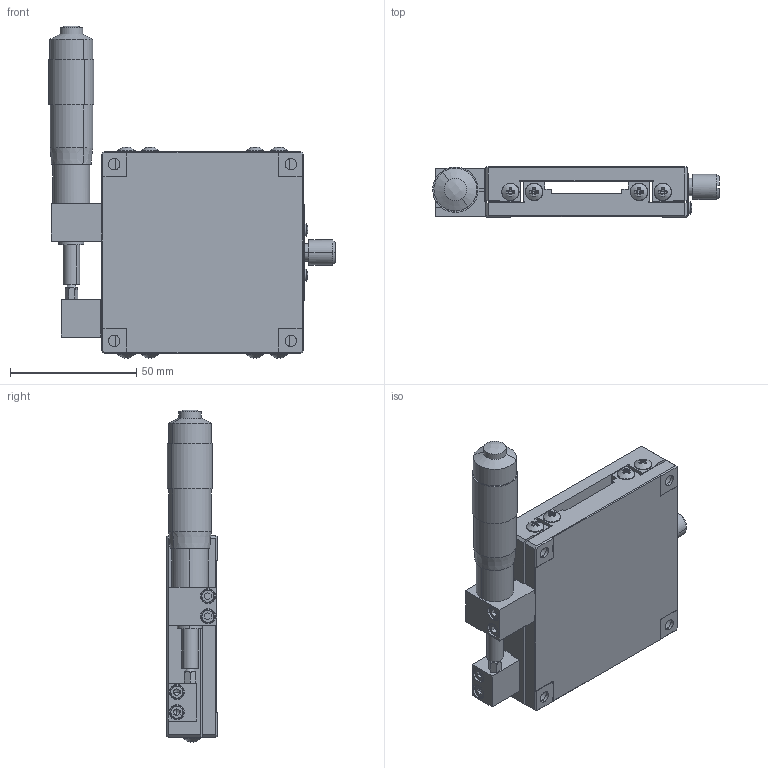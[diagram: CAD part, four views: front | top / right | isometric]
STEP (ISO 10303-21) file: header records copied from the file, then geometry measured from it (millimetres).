
FILE_DESCRIPTION (( 'STEP AP203' ), '1' );
FILE_NAME ('LX80-L.STEP', '2013-12-21T05:47:08', ( 'pengyu' ), ( '' ), 'SwSTEP 2.0', 'SolidWorks 2011', '' );
FILE_SCHEMA (( 'CONFIG_CONTROL_DESIGN' ));
Length unit declared in the file: millimetre
Products named in the file (4): LX80-L; MT25-3-1; L80L-2; L80L-1
Assembly tree (3 placements, depth 2):
  LX80-L
    L80L-2
    MT25-3-1
    L80L-1
Bounding box: 113.57 x 20 x 131.58 mm (x, y, z)
Volume: 128894.3 mm3; surface area: 51337.8 mm2
Topology: 3 solids, 11 shells, 637 faces, 1606 edges, 997 vertices
Faces by surface type: plane 371, cylinder 133, cone 91, bspline 42
Entity records: 20321 total; most frequent: CARTESIAN_POINT 4908, ORIENTED_EDGE 3132, DIRECTION 3111, EDGE_CURVE 1566, AXIS2_PLACEMENT_3D 1148, VERTEX_POINT 997, VECTOR 815, LINE 815
